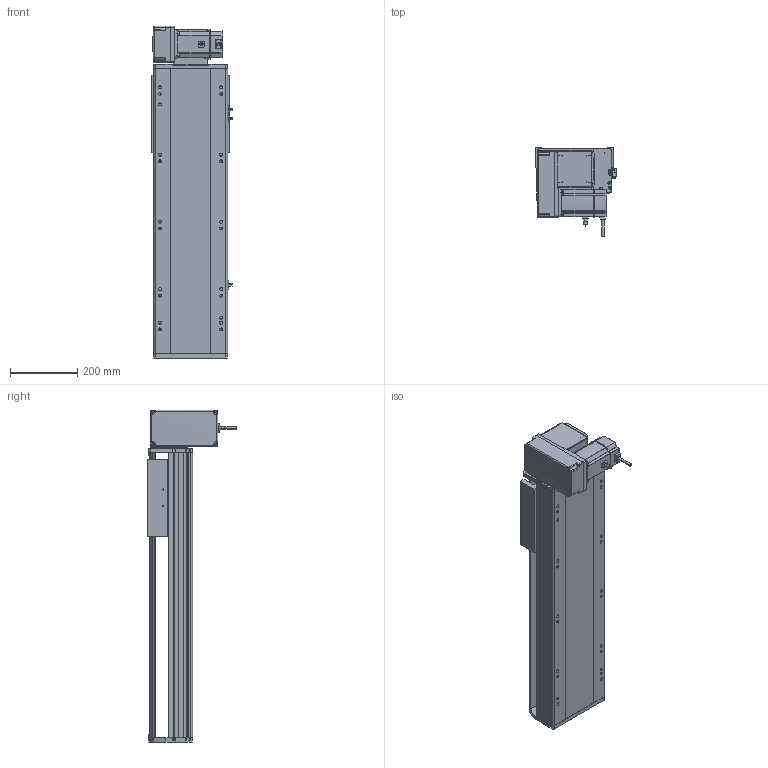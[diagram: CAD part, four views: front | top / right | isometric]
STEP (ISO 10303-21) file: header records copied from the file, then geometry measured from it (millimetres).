
FILE_DESCRIPTION (( 'STEP AP214' ), '1' );
FILE_NAME ('RTB22S-XX-500-LM-M75-C4.STEP', '2025-12-12T03:47:04', ( '' ), ( '' ), 'SwSTEP 2.0', 'SolidWorks 2018', '' );
FILE_SCHEMA (( 'AUTOMOTIVE_DESIGN' ));
Length unit declared in the file: millimetre
Products named in the file (14): RTH22-GY-013外置感应片^RTB22S-XX-XX-LM-M75-C4; RTB22S-GY-014--々湍釱^RMP22S-LM-々湍釱蚾饜_RTB22S-XX-XX-LM-M75-C4; RTB22S-GY-005P^RMP22S-LM-々湍釱蚾饜_RTB22S-XX-XX-LM-M75-C4; RTB22S-GY-001耜裔^RTB22S-XX-XX-LM-M75-C4; 750W萇儂^RTB22S-XX-XX-LM-M75-C4; RMP22S-LM-々湍釱蚾饜^RTB22S-XX-XX-LM-M75-C4; RTB22S-XX-500-LM-M75-C4; RTB22S-GY-018P^RMP22S-LM-々湍釱蚾饜_RTB22S-XX-XX-LM-M75-C4; RTB22S-GY-008-M75--萇儂啣^RMP22S-LM-々湍釱蚾饜_RTB22S-XX-XX-LM-M75-C4; RTB22S-L-011菁釱^RTB22S-XX-XX-LM-M75-C4; OMRON EE-SX672 传感器^RTB22S-XX-XX-LM-M75-C4; RTB22S-GY-007奻裔^RTB22S-XX-XX-LM-M75-C4; RTB22S-L-004賑釱^RTB22S-XX-XX-LM-M75-C4; RTB22S-GY-017P^RMP22S-LM-々湍釱蚾饜_RTB22S-XX-XX-LM-M75-C4
Assembly tree (16 placements, depth 3):
  RTB22S-XX-500-LM-M75-C4
    RTB22S-L-011菁釱^RTB22S-XX-XX-LM-M75-C4
    RTB22S-GY-001耜裔^RTB22S-XX-XX-LM-M75-C4
    750W萇儂^RTB22S-XX-XX-LM-M75-C4
    RTB22S-GY-007奻裔^RTB22S-XX-XX-LM-M75-C4
    RTB22S-L-004賑釱^RTB22S-XX-XX-LM-M75-C4
    RTH22-GY-013外置感应片^RTB22S-XX-XX-LM-M75-C4
    OMRON EE-SX672 传感器^RTB22S-XX-XX-LM-M75-C4  x3
    RMP22S-LM-々湍釱蚾饜^RTB22S-XX-XX-LM-M75-C4
      RTB22S-GY-014--々湍釱^RMP22S-LM-々湍釱蚾饜_RTB22S-XX-XX-LM-M75-C4
      RTB22S-GY-017P^RMP22S-LM-々湍釱蚾饜_RTB22S-XX-XX-LM-M75-C4  x2
      RTB22S-GY-005P^RMP22S-LM-々湍釱蚾饜_RTB22S-XX-XX-LM-M75-C4
      RTB22S-GY-008-M75--萇儂啣^RMP22S-LM-々湍釱蚾饜_RTB22S-XX-XX-LM-M75-C4
      RTB22S-GY-018P^RMP22S-LM-々湍釱蚾饜_RTB22S-XX-XX-LM-M75-C4
Bounding box: 238.5 x 264.7 x 987.5 mm (x, y, z)
Volume: 15463022.1 mm3; surface area: 1634181.1 mm2
Topology: 15 solids, 15 shells, 1929 faces, 5236 edges, 3362 vertices
Faces by surface type: plane 909, cylinder 586, bspline 296, cone 126, sphere 8, torus 4
Entity records: 50794 total; most frequent: CARTESIAN_POINT 14728, ORIENTED_EDGE 7284, DIRECTION 6956, EDGE_CURVE 3642, AXIS2_PLACEMENT_3D 2434, VERTEX_POINT 2366, VECTOR 2088, LINE 2088
